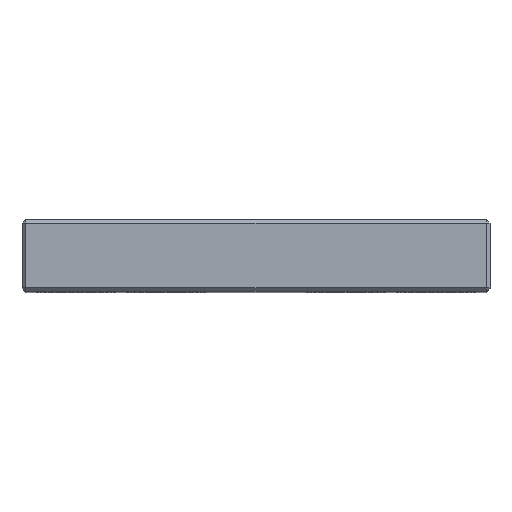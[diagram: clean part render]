
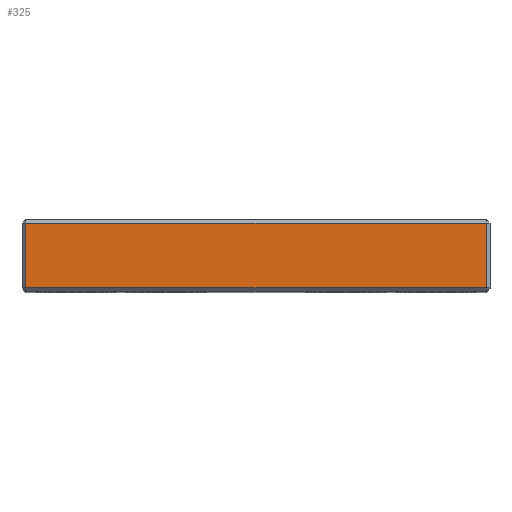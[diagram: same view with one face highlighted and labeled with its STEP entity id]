
A CAD part, top view. The second image highlights one B-rep face of the part: STEP entity #325.
In plain terms, the highlighted planar face has unit normal (0, 0, 1).
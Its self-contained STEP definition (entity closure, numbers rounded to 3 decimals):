
#200 = CARTESIAN_POINT ( 'NONE',  ( -32.5, 4.5, 45. ) ) ;
#237 = DIRECTION ( 'NONE',  ( 1., 0., 0. ) ) ;
#325 = ADVANCED_FACE ( 'NONE', ( #948 ), #1741, .F. ) ;
#464 = CARTESIAN_POINT ( 'NONE',  ( 32., -4.5, 45. ) ) ;
#484 = VECTOR ( 'NONE', #1381, 1000. ) ;
#497 = VECTOR ( 'NONE', #237, 1000. ) ;
#513 = VERTEX_POINT ( 'NONE', #1124 ) ;
#557 = DIRECTION ( 'NONE',  ( 0., -1., 0. ) ) ;
#565 = VERTEX_POINT ( 'NONE', #464 ) ;
#581 = DIRECTION ( 'NONE',  ( 0., 0., -1. ) ) ;
#613 = DIRECTION ( 'NONE',  ( 0., 1., 0. ) ) ;
#673 = AXIS2_PLACEMENT_3D ( 'NONE', #733, #581, #1586 ) ;
#692 = CARTESIAN_POINT ( 'NONE',  ( -32., -4.5, 45. ) ) ;
#726 = ORIENTED_EDGE ( 'NONE', *, *, #861, .T. ) ;
#733 = CARTESIAN_POINT ( 'NONE',  ( -32.5, 5., 45. ) ) ;
#742 = ORIENTED_EDGE ( 'NONE', *, *, #1954, .T. ) ;
#767 = VECTOR ( 'NONE', #557, 1000. ) ;
#861 = EDGE_CURVE ( 'NONE', #2055, #1708, #1667, .T. ) ;
#885 = CARTESIAN_POINT ( 'NONE',  ( -32., 5., 45. ) ) ;
#928 = EDGE_CURVE ( 'NONE', #1708, #565, #1843, .T. ) ;
#933 = CARTESIAN_POINT ( 'NONE',  ( -32.5, -4.5, 45. ) ) ;
#948 = FACE_OUTER_BOUND ( 'NONE', #1269, .T. ) ;
#1101 = CARTESIAN_POINT ( 'NONE',  ( -32., 4.5, 45. ) ) ;
#1124 = CARTESIAN_POINT ( 'NONE',  ( 32., 4.5, 45. ) ) ;
#1269 = EDGE_LOOP ( 'NONE', ( #742, #726, #1785, #1471 ) ) ;
#1381 = DIRECTION ( 'NONE',  ( -1., 0., 0. ) ) ;
#1471 = ORIENTED_EDGE ( 'NONE', *, *, #1491, .T. ) ;
#1491 = EDGE_CURVE ( 'NONE', #565, #513, #1720, .T. ) ;
#1586 = DIRECTION ( 'NONE',  ( -1., 0., 0. ) ) ;
#1667 = LINE ( 'NONE', #885, #767 ) ;
#1708 = VERTEX_POINT ( 'NONE', #692 ) ;
#1720 = LINE ( 'NONE', #1967, #2027 ) ;
#1741 = PLANE ( 'NONE',  #673 ) ;
#1785 = ORIENTED_EDGE ( 'NONE', *, *, #928, .T. ) ;
#1843 = LINE ( 'NONE', #933, #497 ) ;
#1954 = EDGE_CURVE ( 'NONE', #513, #2055, #2182, .T. ) ;
#1967 = CARTESIAN_POINT ( 'NONE',  ( 32., 5., 45. ) ) ;
#2027 = VECTOR ( 'NONE', #613, 1000. ) ;
#2055 = VERTEX_POINT ( 'NONE', #1101 ) ;
#2182 = LINE ( 'NONE', #200, #484 ) ;
